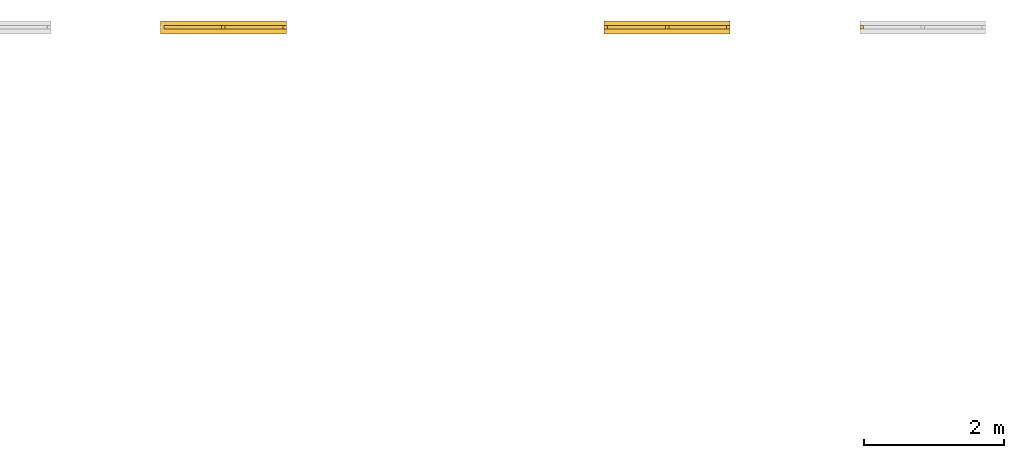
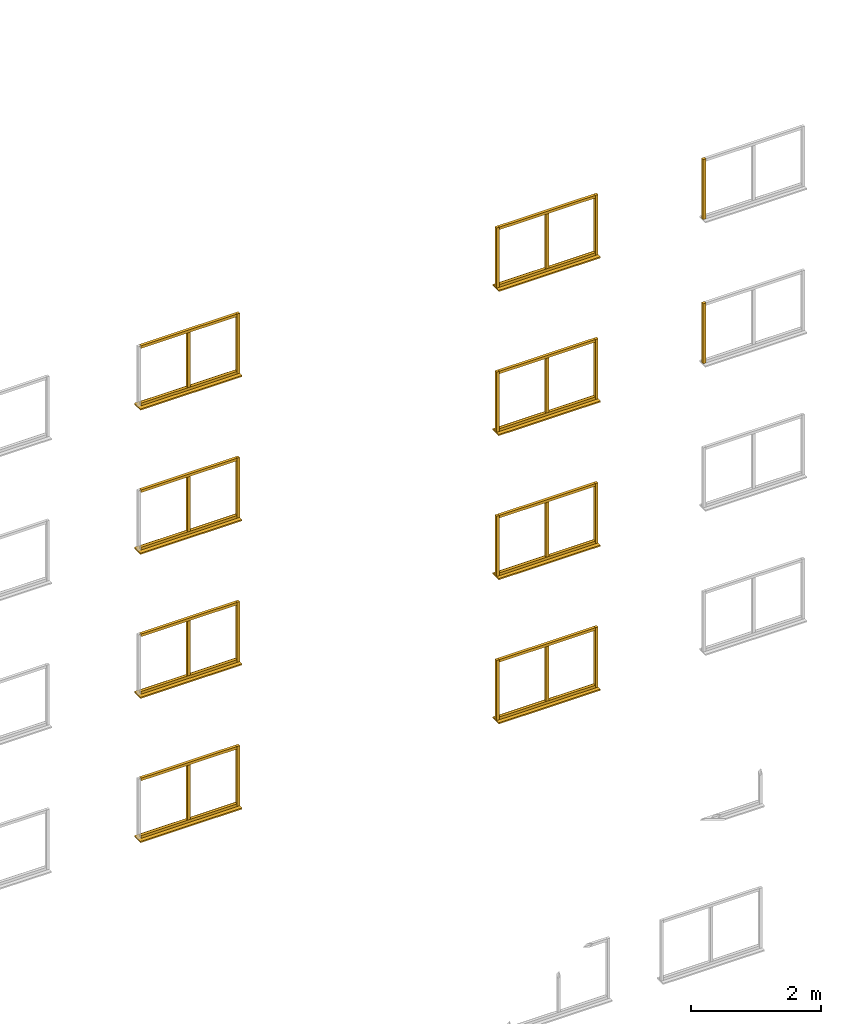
# Not in any storey, part 10 of 22: 46 windows.
"""IFC2X3 model written with IfcOpenShell, lengths in metres."""

from ifc_helpers import new_model, si_unit, frame, origin, place, context, project, faceted_brep, element, save


model = new_model("IFC2X3")

# Units and contexts
model_context = context("Model", 3, precision=1e-06, world=origin())
ifc_project = project(units=[si_unit("LENGTHUNIT", "METRE"), si_unit("PLANEANGLEUNIT", "RADIAN")], contexts=[model_context])

# Windows
placement = place(None, origin())
window_1_placement = place(placement, frame((28.784999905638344, 10.58857790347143, 9.125000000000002), z_axis=(0.0, 0.0, 1.0), x_axis=(-1.0, 0.0, 0.0)))
element("IfcWindow", 1, at=window_1_placement, Name="leftFrame", context=model_context, shape_type="Brep", body=[
    faceted_brep([(0.0, 0.05, 0.0), (0.05, 0.05, 0.0), (0.05, 0.0, 0.0), (0.0, 0.0, 0.0), (0.05, 0.0, 1.125), (0.05, 0.05, 1.125), (0.0, 0.05, 1.125), (0.0, 0.0, 1.125), (0.0, 0.05, 0.0), (0.0, 0.0, 0.0), (0.0, 0.0, 1.125), (0.0, 0.05, 1.125), (0.05, 0.05, 0.0), (0.0, 0.05, 0.0), (0.0, 0.05, 1.125), (0.05, 0.05, 1.125), (0.05, 0.0, 0.0), (0.05, 0.05, 0.0), (0.05, 0.05, 1.125), (0.05, 0.0, 1.125), (0.0, 0.0, 0.0), (0.05, 0.0, 0.0), (0.05, 0.0, 1.125), (0.0, 0.0, 1.125)], [[[0, 1, 2, 3]], [[4, 5, 6, 7]], [[8, 9, 10, 11]], [[12, 13, 14, 15]], [[16, 17, 18, 19]], [[20, 21, 22, 23]]]),
])
window_2_placement = place(placement, frame((28.784999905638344, 10.65707790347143, 9.100000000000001), z_axis=(0.0, 0.0, 1.0), x_axis=(-1.0, 0.0, 0.0)))
element("IfcWindow", 2, at=window_2_placement, Name="windowSill", context=model_context, shape_type="Brep", body=[
    faceted_brep([(0.0, 0.186999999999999, 0.0), (1.8, 0.186999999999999, 0.0), (1.8, 0.0, 0.0), (0.0, 0.0, 0.0), (1.8, 0.0, 0.025), (1.8, 0.186999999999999, 0.025), (0.0, 0.186999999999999, 0.025), (0.0, 0.0, 0.025), (0.0, 0.186999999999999, 0.0), (0.0, 0.0, 0.0), (0.0, 0.0, 0.025), (0.0, 0.186999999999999, 0.025), (1.8, 0.186999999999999, 0.0), (0.0, 0.186999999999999, 0.0), (0.0, 0.186999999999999, 0.025), (1.8, 0.186999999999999, 0.025), (1.8, 0.0, 0.0), (1.8, 0.186999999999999, 0.0), (1.8, 0.186999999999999, 0.025), (1.8, 0.0, 0.025), (0.0, 0.0, 0.0), (1.8, 0.0, 0.0), (1.8, 0.0, 0.025), (0.0, 0.0, 0.025)], [[[0, 1, 2, 3]], [[4, 5, 6, 7]], [[8, 9, 10, 11]], [[12, 13, 14, 15]], [[16, 17, 18, 19]], [[20, 21, 22, 23]]]),
])
window_3_placement = place(placement, frame((28.734999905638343, 10.58857790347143, 10.200000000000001), z_axis=(0.0, 0.0, 1.0), x_axis=(-1.0, 0.0, 0.0)))
element("IfcWindow", 3, at=window_3_placement, Name="topFrame", context=model_context, shape_type="Brep", body=[
    faceted_brep([(0.0, 0.05, 0.0), (1.7, 0.05, 0.0), (1.7, 0.0, 0.0), (0.0, 0.0, 0.0), (1.7, 0.0, 0.05), (1.7, 0.05, 0.05), (0.0, 0.05, 0.05), (0.0, 0.0, 0.05), (0.0, 0.05, 0.0), (0.0, 0.0, 0.0), (0.0, 0.0, 0.05), (0.0, 0.05, 0.05), (1.7, 0.05, 0.0), (0.0, 0.05, 0.0), (0.0, 0.05, 0.05), (1.7, 0.05, 0.05), (1.7, 0.0, 0.0), (1.7, 0.05, 0.0), (1.7, 0.05, 0.05), (1.7, 0.0, 0.05), (0.0, 0.0, 0.0), (1.7, 0.0, 0.0), (1.7, 0.0, 0.05), (0.0, 0.0, 0.05)], [[[0, 1, 2, 3]], [[4, 5, 6, 7]], [[8, 9, 10, 11]], [[12, 13, 14, 15]], [[16, 17, 18, 19]], [[20, 21, 22, 23]]]),
])
window_4_placement = place(placement, frame((27.909999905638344, 10.58857790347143, 9.175), z_axis=(0.0, 0.0, 1.0), x_axis=(-1.0, 0.0, 0.0)))
element("IfcWindow", 4, at=window_4_placement, Name="verticalBar", context=model_context, shape_type="Brep", body=[
    faceted_brep([(0.0, 0.05, 0.0), (0.05, 0.05, 0.0), (0.05, 0.0, 0.0), (0.0, 0.0, 0.0), (0.05, 0.0, 1.025), (0.05, 0.05, 1.025), (0.0, 0.05, 1.025), (0.0, 0.0, 1.025), (0.0, 0.05, 0.0), (0.0, 0.0, 0.0), (0.0, 0.0, 1.025), (0.0, 0.05, 1.025), (0.05, 0.05, 0.0), (0.0, 0.05, 0.0), (0.0, 0.05, 1.025), (0.05, 0.05, 1.025), (0.05, 0.0, 0.0), (0.05, 0.05, 0.0), (0.05, 0.05, 1.025), (0.05, 0.0, 1.025), (0.0, 0.0, 0.0), (0.05, 0.0, 0.0), (0.05, 0.0, 1.025), (0.0, 0.0, 1.025)], [[[0, 1, 2, 3]], [[4, 5, 6, 7]], [[8, 9, 10, 11]], [[12, 13, 14, 15]], [[16, 17, 18, 19]], [[20, 21, 22, 23]]]),
])
window_5_placement = place(placement, frame((22.43540137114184, 10.657077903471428, 9.100000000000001), z_axis=(0.0, 0.0, 1.0), x_axis=(-1.0, 0.0, 0.0)))
element("IfcWindow", 5, at=window_5_placement, Name="windowSill", context=model_context, shape_type="Brep", body=[
    faceted_brep([(0.0, 0.187, 0.0), (1.8, 0.187, 0.0), (1.8, 0.0, 0.0), (0.0, 0.0, 0.0), (1.8, 0.0, 0.025), (1.8, 0.187, 0.025), (0.0, 0.187, 0.025), (0.0, 0.0, 0.025), (0.0, 0.187, 0.0), (0.0, 0.0, 0.0), (0.0, 0.0, 0.025), (0.0, 0.187, 0.025), (1.8, 0.187, 0.0), (0.0, 0.187, 0.0), (0.0, 0.187, 0.025), (1.8, 0.187, 0.025), (1.8, 0.0, 0.0), (1.8, 0.187, 0.0), (1.8, 0.187, 0.025), (1.8, 0.0, 0.025), (0.0, 0.0, 0.0), (1.8, 0.0, 0.0), (1.8, 0.0, 0.025), (0.0, 0.0, 0.025)], [[[0, 1, 2, 3]], [[4, 5, 6, 7]], [[8, 9, 10, 11]], [[12, 13, 14, 15]], [[16, 17, 18, 19]], [[20, 21, 22, 23]]]),
])
for number, where, z_axis, x_axis, name in (
    (6, (22.38540137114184, 10.588577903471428, 9.125000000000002), (0.0, 0.0, 1.0), (-1.0, 0.0, 0.0), "bottomFrame"),
    (7, (22.38540137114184, 10.588577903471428, 10.200000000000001), (0.0, 0.0, 1.0), (-1.0, 0.0, 0.0), "topFrame"),
):
    element("IfcWindow", number, at=place(placement, frame(where, z_axis=z_axis, x_axis=x_axis)), Name=name, context=model_context, shape_type="Brep", body=[
        faceted_brep([(0.0, 0.05, 0.0), (1.7, 0.05, 0.0), (1.7, 0.0, 0.0), (0.0, 0.0, 0.0), (1.7, 0.0, 0.05), (1.7, 0.05, 0.05), (0.0, 0.05, 0.05), (0.0, 0.0, 0.05), (0.0, 0.05, 0.0), (0.0, 0.0, 0.0), (0.0, 0.0, 0.05), (0.0, 0.05, 0.05), (1.7, 0.05, 0.0), (0.0, 0.05, 0.0), (0.0, 0.05, 0.05), (1.7, 0.05, 0.05), (1.7, 0.0, 0.0), (1.7, 0.05, 0.0), (1.7, 0.05, 0.05), (1.7, 0.0, 0.05), (0.0, 0.0, 0.0), (1.7, 0.0, 0.0), (1.7, 0.0, 0.05), (0.0, 0.0, 0.05)], [[[0, 1, 2, 3]], [[4, 5, 6, 7]], [[8, 9, 10, 11]], [[12, 13, 14, 15]], [[16, 17, 18, 19]], [[20, 21, 22, 23]]]),
    ])
window_6_placement = place(placement, frame((21.56040137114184, 10.588577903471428, 9.175), z_axis=(0.0, 0.0, 1.0), x_axis=(-1.0, 0.0, 0.0)))
element("IfcWindow", 8, at=window_6_placement, Name="verticalBar", context=model_context, shape_type="Brep", body=[
    faceted_brep([(0.0, 0.05, 0.0), (0.05, 0.05, 0.0), (0.05, 0.0, 0.0), (0.0, 0.0, 0.0), (0.05, 0.0, 1.025), (0.05, 0.05, 1.025), (0.0, 0.05, 1.025), (0.0, 0.0, 1.025), (0.0, 0.05, 0.0), (0.0, 0.0, 0.0), (0.0, 0.0, 1.025), (0.0, 0.05, 1.025), (0.05, 0.05, 0.0), (0.0, 0.05, 0.0), (0.0, 0.05, 1.025), (0.05, 0.05, 1.025), (0.05, 0.0, 0.0), (0.05, 0.05, 0.0), (0.05, 0.05, 1.025), (0.05, 0.0, 1.025), (0.0, 0.0, 0.0), (0.05, 0.0, 0.0), (0.05, 0.0, 1.025), (0.0, 0.0, 1.025)], [[[0, 1, 2, 3]], [[4, 5, 6, 7]], [[8, 9, 10, 11]], [[12, 13, 14, 15]], [[16, 17, 18, 19]], [[20, 21, 22, 23]]]),
])
for number, where, z_axis, x_axis, name in (
    (9, (22.43540137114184, 10.588577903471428, 9.125000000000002), (0.0, 0.0, 1.0), (-1.0, 0.0, 0.0), "leftFrame"),
    (10, (30.69499990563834, 10.588577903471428, 9.125000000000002), (0.0, 0.0, 1.0), (-1.0, 0.0, 0.0), "rightFrame"),
    (11, (27.034999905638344, 10.58857790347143, 9.125000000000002), (0.0, 0.0, 1.0), (-1.0, 0.0, 0.0), "rightFrame"),
):
    element("IfcWindow", number, at=place(placement, frame(where, z_axis=z_axis, x_axis=x_axis)), Name=name, context=model_context, shape_type="Brep", body=[
        faceted_brep([(0.0, 0.05, 0.0), (0.05, 0.05, 0.0), (0.05, 0.0, 0.0), (0.0, 0.0, 0.0), (0.05, 0.0, 1.125), (0.05, 0.05, 1.125), (0.0, 0.05, 1.125), (0.0, 0.0, 1.125), (0.0, 0.05, 0.0), (0.0, 0.0, 0.0), (0.0, 0.0, 1.125), (0.0, 0.05, 1.125), (0.05, 0.05, 0.0), (0.0, 0.05, 0.0), (0.0, 0.05, 1.125), (0.05, 0.05, 1.125), (0.05, 0.0, 0.0), (0.05, 0.05, 0.0), (0.05, 0.05, 1.125), (0.05, 0.0, 1.125), (0.0, 0.0, 0.0), (0.05, 0.0, 0.0), (0.05, 0.0, 1.125), (0.0, 0.0, 1.125)], [[[0, 1, 2, 3]], [[4, 5, 6, 7]], [[8, 9, 10, 11]], [[12, 13, 14, 15]], [[16, 17, 18, 19]], [[20, 21, 22, 23]]]),
    ])
window_7_placement = place(placement, frame((28.734999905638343, 10.58857790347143, 9.125000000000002), z_axis=(0.0, 0.0, 1.0), x_axis=(-1.0, 0.0, 0.0)))
element("IfcWindow", 12, at=window_7_placement, Name="bottomFrame", context=model_context, shape_type="Brep", body=[
    faceted_brep([(0.0, 0.05, 0.0), (1.7, 0.05, 0.0), (1.7, 0.0, 0.0), (0.0, 0.0, 0.0), (1.7, 0.0, 0.05), (1.7, 0.05, 0.05), (0.0, 0.05, 0.05), (0.0, 0.0, 0.05), (0.0, 0.05, 0.0), (0.0, 0.0, 0.0), (0.0, 0.0, 0.05), (0.0, 0.05, 0.05), (1.7, 0.05, 0.0), (0.0, 0.05, 0.0), (0.0, 0.05, 0.05), (1.7, 0.05, 0.05), (1.7, 0.0, 0.0), (1.7, 0.05, 0.0), (1.7, 0.05, 0.05), (1.7, 0.0, 0.05), (0.0, 0.0, 0.0), (1.7, 0.0, 0.0), (1.7, 0.0, 0.05), (0.0, 0.0, 0.05)], [[[0, 1, 2, 3]], [[4, 5, 6, 7]], [[8, 9, 10, 11]], [[12, 13, 14, 15]], [[16, 17, 18, 19]], [[20, 21, 22, 23]]]),
])
window_8_placement = place(placement, frame((30.69499990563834, 10.588577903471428, 6.425000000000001), z_axis=(0.0, 0.0, 1.0), x_axis=(-1.0, 0.0, 0.0)))
element("IfcWindow", 13, at=window_8_placement, Name="rightFrame", context=model_context, shape_type="Brep", body=[
    faceted_brep([(0.0, 0.05, 0.0), (0.05, 0.05, 0.0), (0.05, 0.0, 0.0), (0.0, 0.0, 0.0), (0.05, 0.0, 1.125), (0.05, 0.05, 1.125), (0.0, 0.05, 1.125), (0.0, 0.0, 1.125), (0.0, 0.05, 0.0), (0.0, 0.0, 0.0), (0.0, 0.0, 1.125), (0.0, 0.05, 1.125), (0.05, 0.05, 0.0), (0.0, 0.05, 0.0), (0.0, 0.05, 1.125), (0.05, 0.05, 1.125), (0.05, 0.0, 0.0), (0.05, 0.05, 0.0), (0.05, 0.05, 1.125), (0.05, 0.0, 1.125), (0.0, 0.0, 0.0), (0.05, 0.0, 0.0), (0.05, 0.0, 1.125), (0.0, 0.0, 1.125)], [[[0, 1, 2, 3]], [[4, 5, 6, 7]], [[8, 9, 10, 11]], [[12, 13, 14, 15]], [[16, 17, 18, 19]], [[20, 21, 22, 23]]]),
])
window_9_placement = place(placement, frame((27.909999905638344, 10.58857790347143, 6.475000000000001), z_axis=(0.0, 0.0, 1.0), x_axis=(-1.0, 0.0, 0.0)))
element("IfcWindow", 14, at=window_9_placement, Name="verticalBar", context=model_context, shape_type="Brep", body=[
    faceted_brep([(0.0, 0.05, 0.0), (0.05, 0.05, 0.0), (0.05, 0.0, 0.0), (0.0, 0.0, 0.0), (0.05, 0.0, 1.025), (0.05, 0.05, 1.025), (0.0, 0.05, 1.025), (0.0, 0.0, 1.025), (0.0, 0.05, 0.0), (0.0, 0.0, 0.0), (0.0, 0.0, 1.025), (0.0, 0.05, 1.025), (0.05, 0.05, 0.0), (0.0, 0.05, 0.0), (0.0, 0.05, 1.025), (0.05, 0.05, 1.025), (0.05, 0.0, 0.0), (0.05, 0.05, 0.0), (0.05, 0.05, 1.025), (0.05, 0.0, 1.025), (0.0, 0.0, 0.0), (0.05, 0.0, 0.0), (0.05, 0.0, 1.025), (0.0, 0.0, 1.025)], [[[0, 1, 2, 3]], [[4, 5, 6, 7]], [[8, 9, 10, 11]], [[12, 13, 14, 15]], [[16, 17, 18, 19]], [[20, 21, 22, 23]]]),
])
window_10_placement = place(placement, frame((28.734999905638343, 10.58857790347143, 7.5), z_axis=(0.0, 0.0, 1.0), x_axis=(-1.0, 0.0, 0.0)))
element("IfcWindow", 15, at=window_10_placement, Name="topFrame", context=model_context, shape_type="Brep", body=[
    faceted_brep([(0.0, 0.05, 0.0), (1.7, 0.05, 0.0), (1.7, 0.0, 0.0), (0.0, 0.0, 0.0), (1.7, 0.0, 0.05), (1.7, 0.05, 0.05), (0.0, 0.05, 0.05), (0.0, 0.0, 0.05), (0.0, 0.05, 0.0), (0.0, 0.0, 0.0), (0.0, 0.0, 0.05), (0.0, 0.05, 0.05), (1.7, 0.05, 0.0), (0.0, 0.05, 0.0), (0.0, 0.05, 0.05), (1.7, 0.05, 0.05), (1.7, 0.0, 0.0), (1.7, 0.05, 0.0), (1.7, 0.05, 0.05), (1.7, 0.0, 0.05), (0.0, 0.0, 0.0), (1.7, 0.0, 0.0), (1.7, 0.0, 0.05), (0.0, 0.0, 0.05)], [[[0, 1, 2, 3]], [[4, 5, 6, 7]], [[8, 9, 10, 11]], [[12, 13, 14, 15]], [[16, 17, 18, 19]], [[20, 21, 22, 23]]]),
])
window_11_placement = place(placement, frame((28.784999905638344, 10.65707790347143, 6.4), z_axis=(0.0, 0.0, 1.0), x_axis=(-1.0, 0.0, 0.0)))
element("IfcWindow", 16, at=window_11_placement, Name="windowSill", context=model_context, shape_type="Brep", body=[
    faceted_brep([(0.0, 0.186999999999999, 0.0), (1.8, 0.186999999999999, 0.0), (1.8, 0.0, 0.0), (0.0, 0.0, 0.0), (1.8, 0.0, 0.025), (1.8, 0.186999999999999, 0.025), (0.0, 0.186999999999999, 0.025), (0.0, 0.0, 0.025), (0.0, 0.186999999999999, 0.0), (0.0, 0.0, 0.0), (0.0, 0.0, 0.025), (0.0, 0.186999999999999, 0.025), (1.8, 0.186999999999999, 0.0), (0.0, 0.186999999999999, 0.0), (0.0, 0.186999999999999, 0.025), (1.8, 0.186999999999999, 0.025), (1.8, 0.0, 0.0), (1.8, 0.186999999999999, 0.0), (1.8, 0.186999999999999, 0.025), (1.8, 0.0, 0.025), (0.0, 0.0, 0.0), (1.8, 0.0, 0.0), (1.8, 0.0, 0.025), (0.0, 0.0, 0.025)], [[[0, 1, 2, 3]], [[4, 5, 6, 7]], [[8, 9, 10, 11]], [[12, 13, 14, 15]], [[16, 17, 18, 19]], [[20, 21, 22, 23]]]),
])
window_12_placement = place(placement, frame((28.784999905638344, 10.58857790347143, 6.425000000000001), z_axis=(0.0, 0.0, 1.0), x_axis=(-1.0, 0.0, 0.0)))
element("IfcWindow", 17, at=window_12_placement, Name="leftFrame", context=model_context, shape_type="Brep", body=[
    faceted_brep([(0.0, 0.05, 0.0), (0.05, 0.05, 0.0), (0.05, 0.0, 0.0), (0.0, 0.0, 0.0), (0.05, 0.0, 1.125), (0.05, 0.05, 1.125), (0.0, 0.05, 1.125), (0.0, 0.0, 1.125), (0.0, 0.05, 0.0), (0.0, 0.0, 0.0), (0.0, 0.0, 1.125), (0.0, 0.05, 1.125), (0.05, 0.05, 0.0), (0.0, 0.05, 0.0), (0.0, 0.05, 1.125), (0.05, 0.05, 1.125), (0.05, 0.0, 0.0), (0.05, 0.05, 0.0), (0.05, 0.05, 1.125), (0.05, 0.0, 1.125), (0.0, 0.0, 0.0), (0.05, 0.0, 0.0), (0.05, 0.0, 1.125), (0.0, 0.0, 1.125)], [[[0, 1, 2, 3]], [[4, 5, 6, 7]], [[8, 9, 10, 11]], [[12, 13, 14, 15]], [[16, 17, 18, 19]], [[20, 21, 22, 23]]]),
])
window_13_placement = place(placement, frame((28.734999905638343, 10.58857790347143, 6.425000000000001), z_axis=(0.0, 0.0, 1.0), x_axis=(-1.0, 0.0, 0.0)))
element("IfcWindow", 18, at=window_13_placement, Name="bottomFrame", context=model_context, shape_type="Brep", body=[
    faceted_brep([(0.0, 0.05, 0.0), (1.7, 0.05, 0.0), (1.7, 0.0, 0.0), (0.0, 0.0, 0.0), (1.7, 0.0, 0.05), (1.7, 0.05, 0.05), (0.0, 0.05, 0.05), (0.0, 0.0, 0.05), (0.0, 0.05, 0.0), (0.0, 0.0, 0.0), (0.0, 0.0, 0.05), (0.0, 0.05, 0.05), (1.7, 0.05, 0.0), (0.0, 0.05, 0.0), (0.0, 0.05, 0.05), (1.7, 0.05, 0.05), (1.7, 0.0, 0.0), (1.7, 0.05, 0.0), (1.7, 0.05, 0.05), (1.7, 0.0, 0.05), (0.0, 0.0, 0.0), (1.7, 0.0, 0.0), (1.7, 0.0, 0.05), (0.0, 0.0, 0.05)], [[[0, 1, 2, 3]], [[4, 5, 6, 7]], [[8, 9, 10, 11]], [[12, 13, 14, 15]], [[16, 17, 18, 19]], [[20, 21, 22, 23]]]),
])
for number, where, z_axis, x_axis, name in (
    (19, (27.034999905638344, 10.58857790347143, 6.425000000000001), (0.0, 0.0, 1.0), (-1.0, 0.0, 0.0), "rightFrame"),
    (20, (27.034999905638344, 10.58857790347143, 3.725), (0.0, 0.0, 1.0), (-1.0, 0.0, 0.0), "rightFrame"),
):
    element("IfcWindow", number, at=place(placement, frame(where, z_axis=z_axis, x_axis=x_axis)), Name=name, context=model_context, shape_type="Brep", body=[
        faceted_brep([(0.0, 0.05, 0.0), (0.05, 0.05, 0.0), (0.05, 0.0, 0.0), (0.0, 0.0, 0.0), (0.05, 0.0, 1.125), (0.05, 0.05, 1.125), (0.0, 0.05, 1.125), (0.0, 0.0, 1.125), (0.0, 0.05, 0.0), (0.0, 0.0, 0.0), (0.0, 0.0, 1.125), (0.0, 0.05, 1.125), (0.05, 0.05, 0.0), (0.0, 0.05, 0.0), (0.0, 0.05, 1.125), (0.05, 0.05, 1.125), (0.05, 0.0, 0.0), (0.05, 0.05, 0.0), (0.05, 0.05, 1.125), (0.05, 0.0, 1.125), (0.0, 0.0, 0.0), (0.05, 0.0, 0.0), (0.05, 0.0, 1.125), (0.0, 0.0, 1.125)], [[[0, 1, 2, 3]], [[4, 5, 6, 7]], [[8, 9, 10, 11]], [[12, 13, 14, 15]], [[16, 17, 18, 19]], [[20, 21, 22, 23]]]),
    ])
window_14_placement = place(placement, frame((28.734999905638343, 10.58857790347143, 3.725), z_axis=(0.0, 0.0, 1.0), x_axis=(-1.0, 0.0, 0.0)))
element("IfcWindow", 21, at=window_14_placement, Name="bottomFrame", context=model_context, shape_type="Brep", body=[
    faceted_brep([(0.0, 0.05, 0.0), (1.7, 0.05, 0.0), (1.7, 0.0, 0.0), (0.0, 0.0, 0.0), (1.7, 0.0, 0.05), (1.7, 0.05, 0.05), (0.0, 0.05, 0.05), (0.0, 0.0, 0.05), (0.0, 0.05, 0.0), (0.0, 0.0, 0.0), (0.0, 0.0, 0.05), (0.0, 0.05, 0.05), (1.7, 0.05, 0.0), (0.0, 0.05, 0.0), (0.0, 0.05, 0.05), (1.7, 0.05, 0.05), (1.7, 0.0, 0.0), (1.7, 0.05, 0.0), (1.7, 0.05, 0.05), (1.7, 0.0, 0.05), (0.0, 0.0, 0.0), (1.7, 0.0, 0.0), (1.7, 0.0, 0.05), (0.0, 0.0, 0.05)], [[[0, 1, 2, 3]], [[4, 5, 6, 7]], [[8, 9, 10, 11]], [[12, 13, 14, 15]], [[16, 17, 18, 19]], [[20, 21, 22, 23]]]),
])
window_15_placement = place(placement, frame((28.784999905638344, 10.58857790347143, 3.725), z_axis=(0.0, 0.0, 1.0), x_axis=(-1.0, 0.0, 0.0)))
element("IfcWindow", 22, at=window_15_placement, Name="leftFrame", context=model_context, shape_type="Brep", body=[
    faceted_brep([(0.0, 0.05, 0.0), (0.05, 0.05, 0.0), (0.05, 0.0, 0.0), (0.0, 0.0, 0.0), (0.05, 0.0, 1.125), (0.05, 0.05, 1.125), (0.0, 0.05, 1.125), (0.0, 0.0, 1.125), (0.0, 0.05, 0.0), (0.0, 0.0, 0.0), (0.0, 0.0, 1.125), (0.0, 0.05, 1.125), (0.05, 0.05, 0.0), (0.0, 0.05, 0.0), (0.0, 0.05, 1.125), (0.05, 0.05, 1.125), (0.05, 0.0, 0.0), (0.05, 0.05, 0.0), (0.05, 0.05, 1.125), (0.05, 0.0, 1.125), (0.0, 0.0, 0.0), (0.05, 0.0, 0.0), (0.05, 0.0, 1.125), (0.0, 0.0, 1.125)], [[[0, 1, 2, 3]], [[4, 5, 6, 7]], [[8, 9, 10, 11]], [[12, 13, 14, 15]], [[16, 17, 18, 19]], [[20, 21, 22, 23]]]),
])
window_16_placement = place(placement, frame((28.784999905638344, 10.65707790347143, 3.7), z_axis=(0.0, 0.0, 1.0), x_axis=(-1.0, 0.0, 0.0)))
element("IfcWindow", 23, at=window_16_placement, Name="windowSill", context=model_context, shape_type="Brep", body=[
    faceted_brep([(0.0, 0.186999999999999, 0.0), (1.8, 0.186999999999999, 0.0), (1.8, 0.0, 0.0), (0.0, 0.0, 0.0), (1.8, 0.0, 0.025), (1.8, 0.186999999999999, 0.025), (0.0, 0.186999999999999, 0.025), (0.0, 0.0, 0.025), (0.0, 0.186999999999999, 0.0), (0.0, 0.0, 0.0), (0.0, 0.0, 0.025), (0.0, 0.186999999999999, 0.025), (1.8, 0.186999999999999, 0.0), (0.0, 0.186999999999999, 0.0), (0.0, 0.186999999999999, 0.025), (1.8, 0.186999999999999, 0.025), (1.8, 0.0, 0.0), (1.8, 0.186999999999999, 0.0), (1.8, 0.186999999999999, 0.025), (1.8, 0.0, 0.025), (0.0, 0.0, 0.0), (1.8, 0.0, 0.0), (1.8, 0.0, 0.025), (0.0, 0.0, 0.025)], [[[0, 1, 2, 3]], [[4, 5, 6, 7]], [[8, 9, 10, 11]], [[12, 13, 14, 15]], [[16, 17, 18, 19]], [[20, 21, 22, 23]]]),
])
window_17_placement = place(placement, frame((28.734999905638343, 10.58857790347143, 4.8), z_axis=(0.0, 0.0, 1.0), x_axis=(-1.0, 0.0, 0.0)))
element("IfcWindow", 24, at=window_17_placement, Name="topFrame", context=model_context, shape_type="Brep", body=[
    faceted_brep([(0.0, 0.05, 0.0), (1.7, 0.05, 0.0), (1.7, 0.0, 0.0), (0.0, 0.0, 0.0), (1.7, 0.0, 0.05), (1.7, 0.05, 0.05), (0.0, 0.05, 0.05), (0.0, 0.0, 0.05), (0.0, 0.05, 0.0), (0.0, 0.0, 0.0), (0.0, 0.0, 0.05), (0.0, 0.05, 0.05), (1.7, 0.05, 0.0), (0.0, 0.05, 0.0), (0.0, 0.05, 0.05), (1.7, 0.05, 0.05), (1.7, 0.0, 0.0), (1.7, 0.05, 0.0), (1.7, 0.05, 0.05), (1.7, 0.0, 0.05), (0.0, 0.0, 0.0), (1.7, 0.0, 0.0), (1.7, 0.0, 0.05), (0.0, 0.0, 0.05)], [[[0, 1, 2, 3]], [[4, 5, 6, 7]], [[8, 9, 10, 11]], [[12, 13, 14, 15]], [[16, 17, 18, 19]], [[20, 21, 22, 23]]]),
])
window_18_placement = place(placement, frame((27.909999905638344, 10.58857790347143, 3.775), z_axis=(0.0, 0.0, 1.0), x_axis=(-1.0, 0.0, 0.0)))
element("IfcWindow", 25, at=window_18_placement, Name="verticalBar", context=model_context, shape_type="Brep", body=[
    faceted_brep([(0.0, 0.05, 0.0), (0.05, 0.05, 0.0), (0.05, 0.0, 0.0), (0.0, 0.0, 0.0), (0.05, 0.0, 1.025), (0.05, 0.05, 1.025), (0.0, 0.05, 1.025), (0.0, 0.0, 1.025), (0.0, 0.05, 0.0), (0.0, 0.0, 0.0), (0.0, 0.0, 1.025), (0.0, 0.05, 1.025), (0.05, 0.05, 0.0), (0.0, 0.05, 0.0), (0.0, 0.05, 1.025), (0.05, 0.05, 1.025), (0.05, 0.0, 0.0), (0.05, 0.05, 0.0), (0.05, 0.05, 1.025), (0.05, 0.0, 1.025), (0.0, 0.0, 0.0), (0.05, 0.0, 0.0), (0.05, 0.0, 1.025), (0.0, 0.0, 1.025)], [[[0, 1, 2, 3]], [[4, 5, 6, 7]], [[8, 9, 10, 11]], [[12, 13, 14, 15]], [[16, 17, 18, 19]], [[20, 21, 22, 23]]]),
])
window_19_placement = place(placement, frame((22.43540137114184, 10.657077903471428, 3.7), z_axis=(0.0, 0.0, 1.0), x_axis=(-1.0, 0.0, 0.0)))
element("IfcWindow", 26, at=window_19_placement, Name="windowSill", context=model_context, shape_type="Brep", body=[
    faceted_brep([(0.0, 0.187, 0.0), (1.8, 0.187, 0.0), (1.8, 0.0, 0.0), (0.0, 0.0, 0.0), (1.8, 0.0, 0.025), (1.8, 0.187, 0.025), (0.0, 0.187, 0.025), (0.0, 0.0, 0.025), (0.0, 0.187, 0.0), (0.0, 0.0, 0.0), (0.0, 0.0, 0.025), (0.0, 0.187, 0.025), (1.8, 0.187, 0.0), (0.0, 0.187, 0.0), (0.0, 0.187, 0.025), (1.8, 0.187, 0.025), (1.8, 0.0, 0.0), (1.8, 0.187, 0.0), (1.8, 0.187, 0.025), (1.8, 0.0, 0.025), (0.0, 0.0, 0.0), (1.8, 0.0, 0.0), (1.8, 0.0, 0.025), (0.0, 0.0, 0.025)], [[[0, 1, 2, 3]], [[4, 5, 6, 7]], [[8, 9, 10, 11]], [[12, 13, 14, 15]], [[16, 17, 18, 19]], [[20, 21, 22, 23]]]),
])
window_20_placement = place(placement, frame((22.38540137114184, 10.588577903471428, 3.725), z_axis=(0.0, 0.0, 1.0), x_axis=(-1.0, 0.0, 0.0)))
element("IfcWindow", 27, at=window_20_placement, Name="bottomFrame", context=model_context, shape_type="Brep", body=[
    faceted_brep([(0.0, 0.05, 0.0), (1.7, 0.05, 0.0), (1.7, 0.0, 0.0), (0.0, 0.0, 0.0), (1.7, 0.0, 0.05), (1.7, 0.05, 0.05), (0.0, 0.05, 0.05), (0.0, 0.0, 0.05), (0.0, 0.05, 0.0), (0.0, 0.0, 0.0), (0.0, 0.0, 0.05), (0.0, 0.05, 0.05), (1.7, 0.05, 0.0), (0.0, 0.05, 0.0), (0.0, 0.05, 0.05), (1.7, 0.05, 0.05), (1.7, 0.0, 0.0), (1.7, 0.05, 0.0), (1.7, 0.05, 0.05), (1.7, 0.0, 0.05), (0.0, 0.0, 0.0), (1.7, 0.0, 0.0), (1.7, 0.0, 0.05), (0.0, 0.0, 0.05)], [[[0, 1, 2, 3]], [[4, 5, 6, 7]], [[8, 9, 10, 11]], [[12, 13, 14, 15]], [[16, 17, 18, 19]], [[20, 21, 22, 23]]]),
])
window_21_placement = place(placement, frame((21.56040137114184, 10.588577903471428, 3.775), z_axis=(0.0, 0.0, 1.0), x_axis=(-1.0, 0.0, 0.0)))
element("IfcWindow", 28, at=window_21_placement, Name="verticalBar", context=model_context, shape_type="Brep", body=[
    faceted_brep([(0.0, 0.05, 0.0), (0.05, 0.05, 0.0), (0.05, 0.0, 0.0), (0.0, 0.0, 0.0), (0.05, 0.0, 1.025), (0.05, 0.05, 1.025), (0.0, 0.05, 1.025), (0.0, 0.0, 1.025), (0.0, 0.05, 0.0), (0.0, 0.0, 0.0), (0.0, 0.0, 1.025), (0.0, 0.05, 1.025), (0.05, 0.05, 0.0), (0.0, 0.05, 0.0), (0.0, 0.05, 1.025), (0.05, 0.05, 1.025), (0.05, 0.0, 0.0), (0.05, 0.05, 0.0), (0.05, 0.05, 1.025), (0.05, 0.0, 1.025), (0.0, 0.0, 0.0), (0.05, 0.0, 0.0), (0.05, 0.0, 1.025), (0.0, 0.0, 1.025)], [[[0, 1, 2, 3]], [[4, 5, 6, 7]], [[8, 9, 10, 11]], [[12, 13, 14, 15]], [[16, 17, 18, 19]], [[20, 21, 22, 23]]]),
])
window_22_placement = place(placement, frame((22.38540137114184, 10.588577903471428, 4.8), z_axis=(0.0, 0.0, 1.0), x_axis=(-1.0, 0.0, 0.0)))
element("IfcWindow", 29, at=window_22_placement, Name="topFrame", context=model_context, shape_type="Brep", body=[
    faceted_brep([(0.0, 0.05, 0.0), (1.7, 0.05, 0.0), (1.7, 0.0, 0.0), (0.0, 0.0, 0.0), (1.7, 0.0, 0.05), (1.7, 0.05, 0.05), (0.0, 0.05, 0.05), (0.0, 0.0, 0.05), (0.0, 0.05, 0.0), (0.0, 0.0, 0.0), (0.0, 0.0, 0.05), (0.0, 0.05, 0.05), (1.7, 0.05, 0.0), (0.0, 0.05, 0.0), (0.0, 0.05, 0.05), (1.7, 0.05, 0.05), (1.7, 0.0, 0.0), (1.7, 0.05, 0.0), (1.7, 0.05, 0.05), (1.7, 0.0, 0.05), (0.0, 0.0, 0.0), (1.7, 0.0, 0.0), (1.7, 0.0, 0.05), (0.0, 0.0, 0.05)], [[[0, 1, 2, 3]], [[4, 5, 6, 7]], [[8, 9, 10, 11]], [[12, 13, 14, 15]], [[16, 17, 18, 19]], [[20, 21, 22, 23]]]),
])
for number, where, z_axis, x_axis, name in (
    (30, (22.43540137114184, 10.588577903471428, 3.725), (0.0, 0.0, 1.0), (-1.0, 0.0, 0.0), "leftFrame"),
    (31, (22.43540137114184, 10.588577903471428, 6.425000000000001), (0.0, 0.0, 1.0), (-1.0, 0.0, 0.0), "leftFrame"),
):
    element("IfcWindow", number, at=place(placement, frame(where, z_axis=z_axis, x_axis=x_axis)), Name=name, context=model_context, shape_type="Brep", body=[
        faceted_brep([(0.0, 0.05, 0.0), (0.05, 0.05, 0.0), (0.05, 0.0, 0.0), (0.0, 0.0, 0.0), (0.05, 0.0, 1.125), (0.05, 0.05, 1.125), (0.0, 0.05, 1.125), (0.0, 0.0, 1.125), (0.0, 0.05, 0.0), (0.0, 0.0, 0.0), (0.0, 0.0, 1.125), (0.0, 0.05, 1.125), (0.05, 0.05, 0.0), (0.0, 0.05, 0.0), (0.0, 0.05, 1.125), (0.05, 0.05, 1.125), (0.05, 0.0, 0.0), (0.05, 0.05, 0.0), (0.05, 0.05, 1.125), (0.05, 0.0, 1.125), (0.0, 0.0, 0.0), (0.05, 0.0, 0.0), (0.05, 0.0, 1.125), (0.0, 0.0, 1.125)], [[[0, 1, 2, 3]], [[4, 5, 6, 7]], [[8, 9, 10, 11]], [[12, 13, 14, 15]], [[16, 17, 18, 19]], [[20, 21, 22, 23]]]),
    ])
window_23_placement = place(placement, frame((21.56040137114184, 10.588577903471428, 6.475000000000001), z_axis=(0.0, 0.0, 1.0), x_axis=(-1.0, 0.0, 0.0)))
element("IfcWindow", 32, at=window_23_placement, Name="verticalBar", context=model_context, shape_type="Brep", body=[
    faceted_brep([(0.0, 0.05, 0.0), (0.05, 0.05, 0.0), (0.05, 0.0, 0.0), (0.0, 0.0, 0.0), (0.05, 0.0, 1.025), (0.05, 0.05, 1.025), (0.0, 0.05, 1.025), (0.0, 0.0, 1.025), (0.0, 0.05, 0.0), (0.0, 0.0, 0.0), (0.0, 0.0, 1.025), (0.0, 0.05, 1.025), (0.05, 0.05, 0.0), (0.0, 0.05, 0.0), (0.0, 0.05, 1.025), (0.05, 0.05, 1.025), (0.05, 0.0, 0.0), (0.05, 0.05, 0.0), (0.05, 0.05, 1.025), (0.05, 0.0, 1.025), (0.0, 0.0, 0.0), (0.05, 0.0, 0.0), (0.05, 0.0, 1.025), (0.0, 0.0, 1.025)], [[[0, 1, 2, 3]], [[4, 5, 6, 7]], [[8, 9, 10, 11]], [[12, 13, 14, 15]], [[16, 17, 18, 19]], [[20, 21, 22, 23]]]),
])
window_24_placement = place(placement, frame((22.38540137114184, 10.588577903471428, 6.425000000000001), z_axis=(0.0, 0.0, 1.0), x_axis=(-1.0, 0.0, 0.0)))
element("IfcWindow", 33, at=window_24_placement, Name="bottomFrame", context=model_context, shape_type="Brep", body=[
    faceted_brep([(0.0, 0.05, 0.0), (1.7, 0.05, 0.0), (1.7, 0.0, 0.0), (0.0, 0.0, 0.0), (1.7, 0.0, 0.05), (1.7, 0.05, 0.05), (0.0, 0.05, 0.05), (0.0, 0.0, 0.05), (0.0, 0.05, 0.0), (0.0, 0.0, 0.0), (0.0, 0.0, 0.05), (0.0, 0.05, 0.05), (1.7, 0.05, 0.0), (0.0, 0.05, 0.0), (0.0, 0.05, 0.05), (1.7, 0.05, 0.05), (1.7, 0.0, 0.0), (1.7, 0.05, 0.0), (1.7, 0.05, 0.05), (1.7, 0.0, 0.05), (0.0, 0.0, 0.0), (1.7, 0.0, 0.0), (1.7, 0.0, 0.05), (0.0, 0.0, 0.05)], [[[0, 1, 2, 3]], [[4, 5, 6, 7]], [[8, 9, 10, 11]], [[12, 13, 14, 15]], [[16, 17, 18, 19]], [[20, 21, 22, 23]]]),
])
window_25_placement = place(placement, frame((22.43540137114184, 10.657077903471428, 6.4), z_axis=(0.0, 0.0, 1.0), x_axis=(-1.0, 0.0, 0.0)))
element("IfcWindow", 34, at=window_25_placement, Name="windowSill", context=model_context, shape_type="Brep", body=[
    faceted_brep([(0.0, 0.187, 0.0), (1.8, 0.187, 0.0), (1.8, 0.0, 0.0), (0.0, 0.0, 0.0), (1.8, 0.0, 0.025), (1.8, 0.187, 0.025), (0.0, 0.187, 0.025), (0.0, 0.0, 0.025), (0.0, 0.187, 0.0), (0.0, 0.0, 0.0), (0.0, 0.0, 0.025), (0.0, 0.187, 0.025), (1.8, 0.187, 0.0), (0.0, 0.187, 0.0), (0.0, 0.187, 0.025), (1.8, 0.187, 0.025), (1.8, 0.0, 0.0), (1.8, 0.187, 0.0), (1.8, 0.187, 0.025), (1.8, 0.0, 0.025), (0.0, 0.0, 0.0), (1.8, 0.0, 0.0), (1.8, 0.0, 0.025), (0.0, 0.0, 0.025)], [[[0, 1, 2, 3]], [[4, 5, 6, 7]], [[8, 9, 10, 11]], [[12, 13, 14, 15]], [[16, 17, 18, 19]], [[20, 21, 22, 23]]]),
])
window_26_placement = place(placement, frame((27.909999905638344, 10.58857790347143, 1.075), z_axis=(0.0, 0.0, 1.0), x_axis=(-1.0, 0.0, 0.0)))
element("IfcWindow", 35, at=window_26_placement, Name="verticalBar", context=model_context, shape_type="Brep", body=[
    faceted_brep([(0.0, 0.05, 0.0), (0.05, 0.05, 0.0), (0.05, 0.0, 0.0), (0.0, 0.0, 0.0), (0.05, 0.0, 1.025), (0.05, 0.05, 1.025), (0.0, 0.05, 1.025), (0.0, 0.0, 1.025), (0.0, 0.05, 0.0), (0.0, 0.0, 0.0), (0.0, 0.0, 1.025), (0.0, 0.05, 1.025), (0.05, 0.05, 0.0), (0.0, 0.05, 0.0), (0.0, 0.05, 1.025), (0.05, 0.05, 1.025), (0.05, 0.0, 0.0), (0.05, 0.05, 0.0), (0.05, 0.05, 1.025), (0.05, 0.0, 1.025), (0.0, 0.0, 0.0), (0.05, 0.0, 0.0), (0.05, 0.0, 1.025), (0.0, 0.0, 1.025)], [[[0, 1, 2, 3]], [[4, 5, 6, 7]], [[8, 9, 10, 11]], [[12, 13, 14, 15]], [[16, 17, 18, 19]], [[20, 21, 22, 23]]]),
])
window_27_placement = place(placement, frame((28.784999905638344, 10.65707790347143, 1.0), z_axis=(0.0, 0.0, 1.0), x_axis=(-1.0, 0.0, 0.0)))
element("IfcWindow", 36, at=window_27_placement, Name="windowSill", context=model_context, shape_type="Brep", body=[
    faceted_brep([(0.0, 0.186999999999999, 0.0), (1.8, 0.186999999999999, 0.0), (1.8, 0.0, 0.0), (0.0, 0.0, 0.0), (1.8, 0.0, 0.025), (1.8, 0.186999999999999, 0.025), (0.0, 0.186999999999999, 0.025), (0.0, 0.0, 0.025), (0.0, 0.186999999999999, 0.0), (0.0, 0.0, 0.0), (0.0, 0.0, 0.025), (0.0, 0.186999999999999, 0.025), (1.8, 0.186999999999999, 0.0), (0.0, 0.186999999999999, 0.0), (0.0, 0.186999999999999, 0.025), (1.8, 0.186999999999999, 0.025), (1.8, 0.0, 0.0), (1.8, 0.186999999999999, 0.0), (1.8, 0.186999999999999, 0.025), (1.8, 0.0, 0.025), (0.0, 0.0, 0.0), (1.8, 0.0, 0.0), (1.8, 0.0, 0.025), (0.0, 0.0, 0.025)], [[[0, 1, 2, 3]], [[4, 5, 6, 7]], [[8, 9, 10, 11]], [[12, 13, 14, 15]], [[16, 17, 18, 19]], [[20, 21, 22, 23]]]),
])
for number, where, z_axis, x_axis, name in (
    (37, (28.784999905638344, 10.58857790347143, 1.025), (0.0, 0.0, 1.0), (-1.0, 0.0, 0.0), "leftFrame"),
    (38, (27.034999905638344, 10.58857790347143, 1.025), (0.0, 0.0, 1.0), (-1.0, 0.0, 0.0), "rightFrame"),
):
    element("IfcWindow", number, at=place(placement, frame(where, z_axis=z_axis, x_axis=x_axis)), Name=name, context=model_context, shape_type="Brep", body=[
        faceted_brep([(0.0, 0.05, 0.0), (0.05, 0.05, 0.0), (0.05, 0.0, 0.0), (0.0, 0.0, 0.0), (0.05, 0.0, 1.125), (0.05, 0.05, 1.125), (0.0, 0.05, 1.125), (0.0, 0.0, 1.125), (0.0, 0.05, 0.0), (0.0, 0.0, 0.0), (0.0, 0.0, 1.125), (0.0, 0.05, 1.125), (0.05, 0.05, 0.0), (0.0, 0.05, 0.0), (0.0, 0.05, 1.125), (0.05, 0.05, 1.125), (0.05, 0.0, 0.0), (0.05, 0.05, 0.0), (0.05, 0.05, 1.125), (0.05, 0.0, 1.125), (0.0, 0.0, 0.0), (0.05, 0.0, 0.0), (0.05, 0.0, 1.125), (0.0, 0.0, 1.125)], [[[0, 1, 2, 3]], [[4, 5, 6, 7]], [[8, 9, 10, 11]], [[12, 13, 14, 15]], [[16, 17, 18, 19]], [[20, 21, 22, 23]]]),
    ])
window_28_placement = place(placement, frame((28.734999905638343, 10.58857790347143, 1.025), z_axis=(0.0, 0.0, 1.0), x_axis=(-1.0, 0.0, 0.0)))
element("IfcWindow", 39, at=window_28_placement, Name="bottomFrame", context=model_context, shape_type="Brep", body=[
    faceted_brep([(0.0, 0.05, 0.0), (1.7, 0.05, 0.0), (1.7, 0.0, 0.0), (0.0, 0.0, 0.0), (1.7, 0.0, 0.05), (1.7, 0.05, 0.05), (0.0, 0.05, 0.05), (0.0, 0.0, 0.05), (0.0, 0.05, 0.0), (0.0, 0.0, 0.0), (0.0, 0.0, 0.05), (0.0, 0.05, 0.05), (1.7, 0.05, 0.0), (0.0, 0.05, 0.0), (0.0, 0.05, 0.05), (1.7, 0.05, 0.05), (1.7, 0.0, 0.0), (1.7, 0.05, 0.0), (1.7, 0.05, 0.05), (1.7, 0.0, 0.05), (0.0, 0.0, 0.0), (1.7, 0.0, 0.0), (1.7, 0.0, 0.05), (0.0, 0.0, 0.05)], [[[0, 1, 2, 3]], [[4, 5, 6, 7]], [[8, 9, 10, 11]], [[12, 13, 14, 15]], [[16, 17, 18, 19]], [[20, 21, 22, 23]]]),
])
window_29_placement = place(placement, frame((22.43540137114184, 10.588577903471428, 1.025), z_axis=(0.0, 0.0, 1.0), x_axis=(-1.0, 0.0, 0.0)))
element("IfcWindow", 40, at=window_29_placement, Name="leftFrame", context=model_context, shape_type="Brep", body=[
    faceted_brep([(0.0, 0.05, 0.0), (0.05, 0.05, 0.0), (0.05, 0.0, 0.0), (0.0, 0.0, 0.0), (0.05, 0.0, 1.125), (0.05, 0.05, 1.125), (0.0, 0.05, 1.125), (0.0, 0.0, 1.125), (0.0, 0.05, 0.0), (0.0, 0.0, 0.0), (0.0, 0.0, 1.125), (0.0, 0.05, 1.125), (0.05, 0.05, 0.0), (0.0, 0.05, 0.0), (0.0, 0.05, 1.125), (0.05, 0.05, 1.125), (0.05, 0.0, 0.0), (0.05, 0.05, 0.0), (0.05, 0.05, 1.125), (0.05, 0.0, 1.125), (0.0, 0.0, 0.0), (0.05, 0.0, 0.0), (0.05, 0.0, 1.125), (0.0, 0.0, 1.125)], [[[0, 1, 2, 3]], [[4, 5, 6, 7]], [[8, 9, 10, 11]], [[12, 13, 14, 15]], [[16, 17, 18, 19]], [[20, 21, 22, 23]]]),
])
for number, where, z_axis, x_axis, name in (
    (41, (22.38540137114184, 10.588577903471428, 1.025), (0.0, 0.0, 1.0), (-1.0, 0.0, 0.0), "bottomFrame"),
    (42, (22.38540137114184, 10.588577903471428, 7.5), (0.0, 0.0, 1.0), (-1.0, 0.0, 0.0), "topFrame"),
):
    element("IfcWindow", number, at=place(placement, frame(where, z_axis=z_axis, x_axis=x_axis)), Name=name, context=model_context, shape_type="Brep", body=[
        faceted_brep([(0.0, 0.05, 0.0), (1.7, 0.05, 0.0), (1.7, 0.0, 0.0), (0.0, 0.0, 0.0), (1.7, 0.0, 0.05), (1.7, 0.05, 0.05), (0.0, 0.05, 0.05), (0.0, 0.0, 0.05), (0.0, 0.05, 0.0), (0.0, 0.0, 0.0), (0.0, 0.0, 0.05), (0.0, 0.05, 0.05), (1.7, 0.05, 0.0), (0.0, 0.05, 0.0), (0.0, 0.05, 0.05), (1.7, 0.05, 0.05), (1.7, 0.0, 0.0), (1.7, 0.05, 0.0), (1.7, 0.05, 0.05), (1.7, 0.0, 0.05), (0.0, 0.0, 0.0), (1.7, 0.0, 0.0), (1.7, 0.0, 0.05), (0.0, 0.0, 0.05)], [[[0, 1, 2, 3]], [[4, 5, 6, 7]], [[8, 9, 10, 11]], [[12, 13, 14, 15]], [[16, 17, 18, 19]], [[20, 21, 22, 23]]]),
    ])
window_30_placement = place(placement, frame((22.43540137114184, 10.657077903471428, 1.0), z_axis=(0.0, 0.0, 1.0), x_axis=(-1.0, 0.0, 0.0)))
element("IfcWindow", 43, at=window_30_placement, Name="windowSill", context=model_context, shape_type="Brep", body=[
    faceted_brep([(0.0, 0.187, 0.0), (1.8, 0.187, 0.0), (1.8, 0.0, 0.0), (0.0, 0.0, 0.0), (1.8, 0.0, 0.025), (1.8, 0.187, 0.025), (0.0, 0.187, 0.025), (0.0, 0.0, 0.025), (0.0, 0.187, 0.0), (0.0, 0.0, 0.0), (0.0, 0.0, 0.025), (0.0, 0.187, 0.025), (1.8, 0.187, 0.0), (0.0, 0.187, 0.0), (0.0, 0.187, 0.025), (1.8, 0.187, 0.025), (1.8, 0.0, 0.0), (1.8, 0.187, 0.0), (1.8, 0.187, 0.025), (1.8, 0.0, 0.025), (0.0, 0.0, 0.0), (1.8, 0.0, 0.0), (1.8, 0.0, 0.025), (0.0, 0.0, 0.025)], [[[0, 1, 2, 3]], [[4, 5, 6, 7]], [[8, 9, 10, 11]], [[12, 13, 14, 15]], [[16, 17, 18, 19]], [[20, 21, 22, 23]]]),
])
window_31_placement = place(placement, frame((22.38540137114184, 10.588577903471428, 2.1), z_axis=(0.0, 0.0, 1.0), x_axis=(-1.0, 0.0, 0.0)))
element("IfcWindow", 44, at=window_31_placement, Name="topFrame", context=model_context, shape_type="Brep", body=[
    faceted_brep([(0.0, 0.05, 0.0), (1.7, 0.05, 0.0), (1.7, 0.0, 0.0), (0.0, 0.0, 0.0), (1.7, 0.0, 0.05), (1.7, 0.05, 0.05), (0.0, 0.05, 0.05), (0.0, 0.0, 0.05), (0.0, 0.05, 0.0), (0.0, 0.0, 0.0), (0.0, 0.0, 0.05), (0.0, 0.05, 0.05), (1.7, 0.05, 0.0), (0.0, 0.05, 0.0), (0.0, 0.05, 0.05), (1.7, 0.05, 0.05), (1.7, 0.0, 0.0), (1.7, 0.05, 0.0), (1.7, 0.05, 0.05), (1.7, 0.0, 0.05), (0.0, 0.0, 0.0), (1.7, 0.0, 0.0), (1.7, 0.0, 0.05), (0.0, 0.0, 0.05)], [[[0, 1, 2, 3]], [[4, 5, 6, 7]], [[8, 9, 10, 11]], [[12, 13, 14, 15]], [[16, 17, 18, 19]], [[20, 21, 22, 23]]]),
])
window_32_placement = place(placement, frame((21.56040137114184, 10.588577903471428, 1.075), z_axis=(0.0, 0.0, 1.0), x_axis=(-1.0, 0.0, 0.0)))
element("IfcWindow", 45, at=window_32_placement, Name="verticalBar", context=model_context, shape_type="Brep", body=[
    faceted_brep([(0.0, 0.05, 0.0), (0.05, 0.05, 0.0), (0.05, 0.0, 0.0), (0.0, 0.0, 0.0), (0.05, 0.0, 1.025), (0.05, 0.05, 1.025), (0.0, 0.05, 1.025), (0.0, 0.0, 1.025), (0.0, 0.05, 0.0), (0.0, 0.0, 0.0), (0.0, 0.0, 1.025), (0.0, 0.05, 1.025), (0.05, 0.05, 0.0), (0.0, 0.05, 0.0), (0.0, 0.05, 1.025), (0.05, 0.05, 1.025), (0.05, 0.0, 0.0), (0.05, 0.05, 0.0), (0.05, 0.05, 1.025), (0.05, 0.0, 1.025), (0.0, 0.0, 0.0), (0.05, 0.0, 0.0), (0.05, 0.0, 1.025), (0.0, 0.0, 1.025)], [[[0, 1, 2, 3]], [[4, 5, 6, 7]], [[8, 9, 10, 11]], [[12, 13, 14, 15]], [[16, 17, 18, 19]], [[20, 21, 22, 23]]]),
])
window_33_placement = place(placement, frame((28.734999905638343, 10.58857790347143, 2.1), z_axis=(0.0, 0.0, 1.0), x_axis=(-1.0, 0.0, 0.0)))
element("IfcWindow", 46, at=window_33_placement, Name="topFrame", context=model_context, shape_type="Brep", body=[
    faceted_brep([(0.0, 0.05, 0.0), (1.7, 0.05, 0.0), (1.7, 0.0, 0.0), (0.0, 0.0, 0.0), (1.7, 0.0, 0.05), (1.7, 0.05, 0.05), (0.0, 0.05, 0.05), (0.0, 0.0, 0.05), (0.0, 0.05, 0.0), (0.0, 0.0, 0.0), (0.0, 0.0, 0.05), (0.0, 0.05, 0.05), (1.7, 0.05, 0.0), (0.0, 0.05, 0.0), (0.0, 0.05, 0.05), (1.7, 0.05, 0.05), (1.7, 0.0, 0.0), (1.7, 0.05, 0.0), (1.7, 0.05, 0.05), (1.7, 0.0, 0.05), (0.0, 0.0, 0.0), (1.7, 0.0, 0.0), (1.7, 0.0, 0.05), (0.0, 0.0, 0.05)], [[[0, 1, 2, 3]], [[4, 5, 6, 7]], [[8, 9, 10, 11]], [[12, 13, 14, 15]], [[16, 17, 18, 19]], [[20, 21, 22, 23]]]),
])

save(model, "model.ifc")
